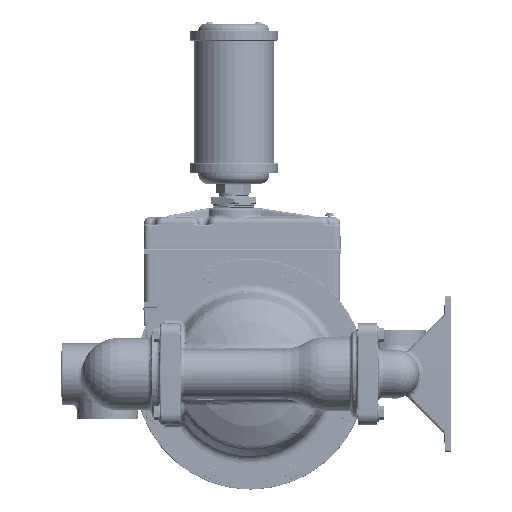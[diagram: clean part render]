
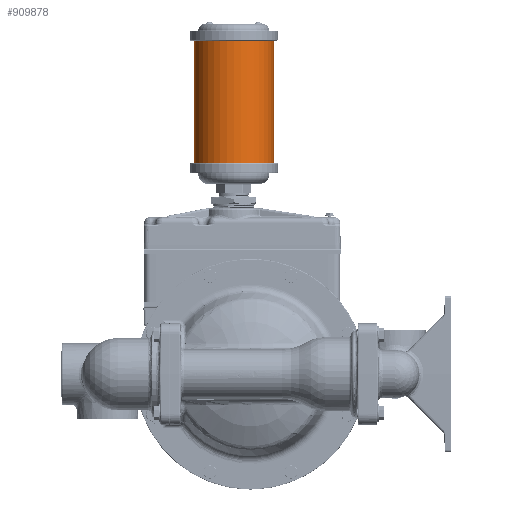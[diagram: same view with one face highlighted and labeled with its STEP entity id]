
A CAD part, left-side view. The second image highlights one B-rep face of the part: STEP entity #909878.
In plain terms, the highlighted cylindrical face has radius 45.339 mm (diameter 90.678 mm), a partial arc.
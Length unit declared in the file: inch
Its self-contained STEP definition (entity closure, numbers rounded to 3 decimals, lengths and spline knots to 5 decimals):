
#344574=DIRECTION('',(0.,0.,1.));
#344575=VECTOR('',#344574,5.5);
#344576=CARTESIAN_POINT('',(0.,2.535,9.47));
#344577=LINE('',#344576,#344575);
#344578=DIRECTION('',(0.,0.,1.));
#344579=VECTOR('',#344578,5.5);
#344580=CARTESIAN_POINT('',(0.,-1.035,9.47));
#344581=LINE('',#344580,#344579);
#344582=CARTESIAN_POINT('',(0.,0.75,9.47));
#344583=DIRECTION('',(0.,0.,1.));
#344584=DIRECTION('',(0.,1.,0.));
#344585=AXIS2_PLACEMENT_3D('',#344582,#344583,#344584);
#344607=CARTESIAN_POINT('',(0.,0.75,14.97));
#344608=DIRECTION('',(0.,0.,1.));
#344609=DIRECTION('',(0.,1.,0.));
#344610=AXIS2_PLACEMENT_3D('',#344607,#344608,#344609);
#634597=CARTESIAN_POINT('',(0.,2.535,9.47));
#634598=CARTESIAN_POINT('',(0.,2.535,14.97));
#634599=VERTEX_POINT('',#634597);
#634600=VERTEX_POINT('',#634598);
#634601=CARTESIAN_POINT('',(0.,-1.035,9.47));
#634602=CARTESIAN_POINT('',(0.,-1.035,14.97));
#634603=VERTEX_POINT('',#634601);
#634604=VERTEX_POINT('',#634602);
#909864=CARTESIAN_POINT('',(0.,0.75,16.079));
#909865=DIRECTION('',(0.,0.,-1.));
#909866=DIRECTION('',(0.,-1.,0.));
#909867=AXIS2_PLACEMENT_3D('',#909864,#909865,#909866);
#909868=CYLINDRICAL_SURFACE('',#909867,1.785);
#909870=ORIENTED_EDGE('',*,*,#909869,.T.);
#909872=ORIENTED_EDGE('',*,*,#909871,.T.);
#909874=ORIENTED_EDGE('',*,*,#909873,.F.);
#909875=ORIENTED_EDGE('',*,*,#909845,.F.);
#909876=EDGE_LOOP('',(#909870,#909872,#909874,#909875));
#909877=FACE_OUTER_BOUND('',#909876,.F.);
#909878=ADVANCED_FACE('',(#909877),#909868,.T.);
#344586=CIRCLE('',#344585,1.785);
#344611=CIRCLE('',#344610,1.785);
#909845=EDGE_CURVE('',#634599,#634603,#344586,.T.);
#909869=EDGE_CURVE('',#634599,#634600,#344577,.T.);
#909871=EDGE_CURVE('',#634600,#634604,#344611,.T.);
#909873=EDGE_CURVE('',#634603,#634604,#344581,.T.);
